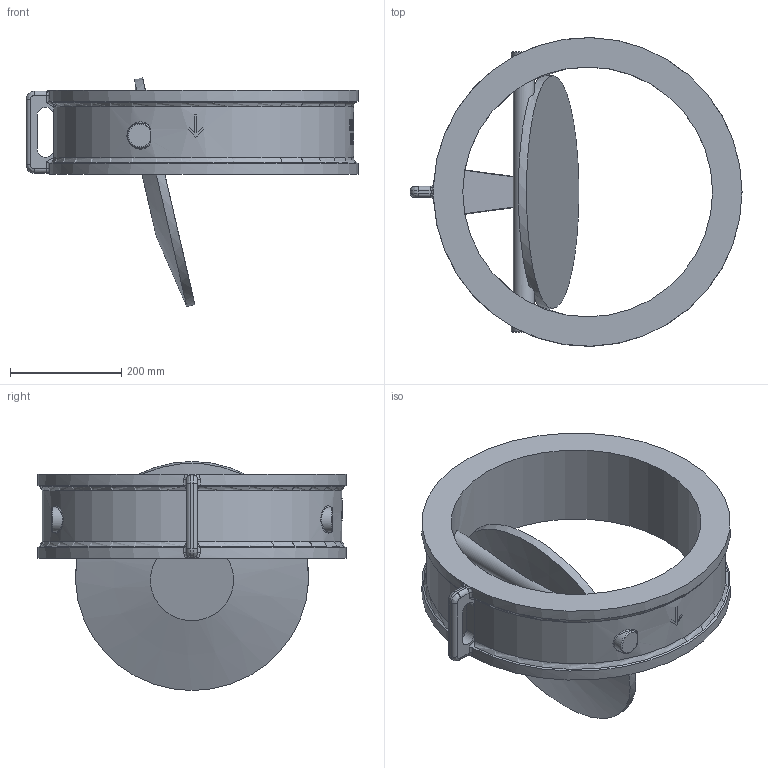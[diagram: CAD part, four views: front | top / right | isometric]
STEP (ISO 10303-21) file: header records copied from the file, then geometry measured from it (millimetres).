
FILE_DESCRIPTION( ( 'Unknown' ), '1' );
FILE_NAME( 'C:/Documents and Settings/Klaus/My Documents/Rootsi BPS 3D, Klaus/BPS 6530 tilting disc check valve/STEP/BPS6530450 tilting disc check valve DN450.stp', 'Unknown', ( 'Unknown' ), ( 'Unknown' ), 'PSStep 10.1', 'Unknown', ' ' );
FILE_SCHEMA( ( 'AUTOMOTIVE_DESIGN { 1 0 10303 214 1 1 1 1 }' ) );
Length unit declared in the file: millimetre
Products named in the file (1): 1
Bounding box: 598 x 555.91 x 412.61 mm (x, y, z)
Volume: 15629617.5 mm3; surface area: 995562.8 mm2
Topology: 1 solids, 1 shells, 270 faces, 677 edges, 439 vertices
Faces by surface type: plane 107, bspline 98, cylinder 55, torus 6, cone 4
Full cylindrical faces by diameter (mm): 38 x1, 420 x1, 450 x1
Entity records: 27019 total; most frequent: CARTESIAN_POINT 19758, ORIENTED_EDGE 1324, EDGE_CURVE 662, DIRECTION 544, B_SPLINE_CURVE_WITH_KNOTS 537, VERTEX_POINT 435, EDGE_LOOP 319, FACE_OUTER_BOUND 279
